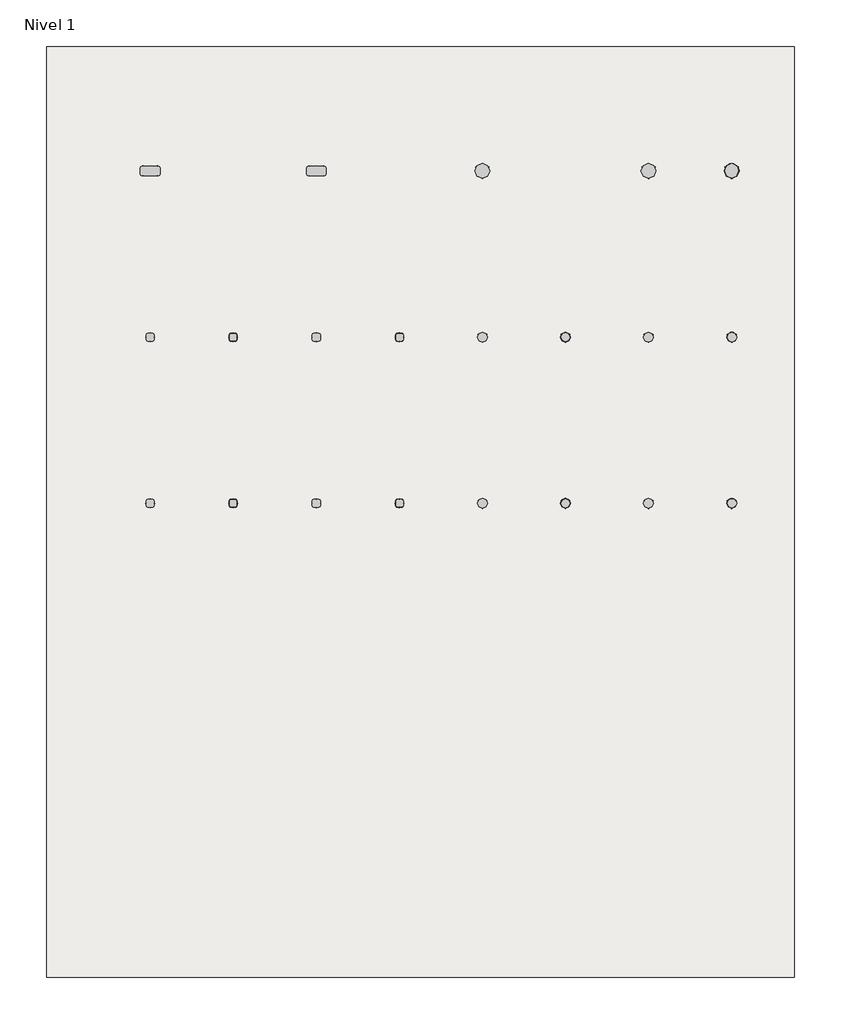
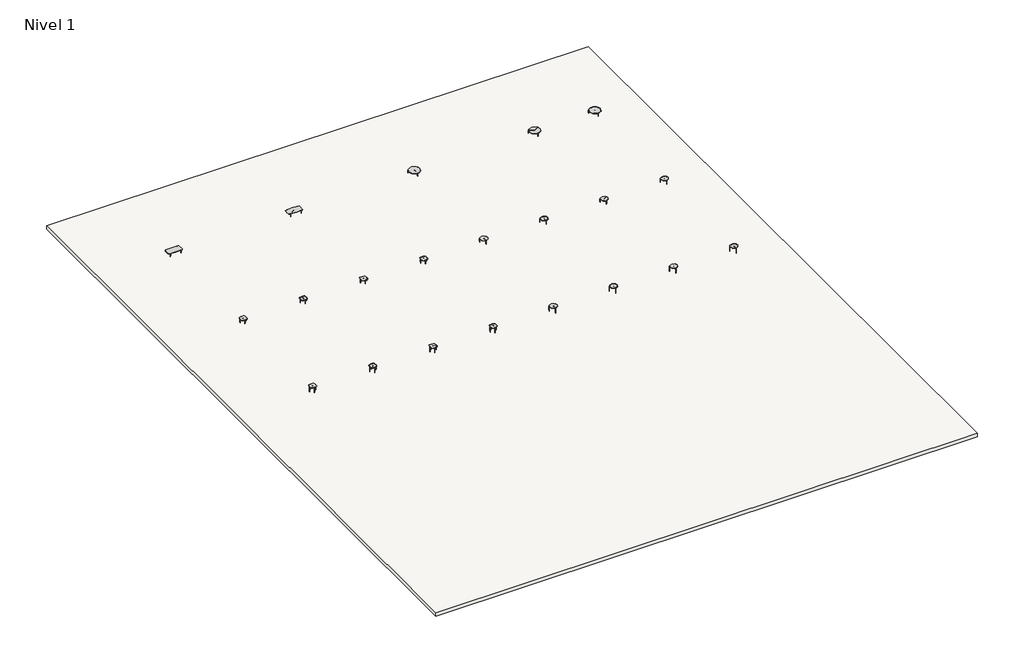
# One storey, incomplete: 21 furniture elements, 1 slab.
"""IFC4 building model written with IfcOpenShell, lengths in millimetres."""

from ifc_helpers import new_model, si_unit, frame, origin, place, context, project, spatial, polyline, outline, extrude, transform, mapped, element, save
from components import furniture_3ea3abeb, furniture_0b7f0485, furniture_68b2156a, furniture_04b375e8, furniture_84bfae13, furniture_c892bf0a, furniture_d338b52c, furniture_d06894ee, furniture_a6a437eb, furniture_f02ffc08, furniture_a62885bd, furniture_dfe64af2, furniture_f1675d91, furniture_cd6018a7, furniture_a31ff325, furniture_b73a5fb6, furniture_b69855c9, furniture_e455597c, furniture_3b859df5, furniture_46decb34, furniture_c5b88fe7

model = new_model("IFC4")

# Units and contexts
model_context = context("Model", 3, world=origin())
ifc_project = project(units=[si_unit("LENGTHUNIT", "METRE", prefix="MILLI")], contexts=[model_context])

# Site, building, storey
site = spatial("IfcSite", under=ifc_project)
building = spatial("IfcBuilding", under=site)
storey = spatial("IfcBuildingStorey", under=building, Name="Nivel 1", Elevation=0.0)

# Furniture
placement = place(None, origin())
furniture_shape = furniture_3ea3abeb(model_context)
element("IfcFurniture", 1, ObjectType="RECTANGULAR TABLE_H=25 : EI125B051260A_M", at=placement, inside=storey, context=model_context, shape_type="MappedRepresentation", body=[
    mapped(furniture_shape, transform((-18701.5713324, 5558.6247501, 0.0), x_axis=(1.0, 0.0, 0.0), y_axis=(0.0, 1.0, 0.0), z_axis=(0.0, 0.0, 1.0))),
])
furniture_2_shape = furniture_0b7f0485(model_context)
element("IfcFurniture", 2, ObjectType="RECTANGULAR TABLE_H=25 : EI125B051260A_G", at=placement, inside=storey, context=model_context, shape_type="MappedRepresentation", body=[
    mapped(furniture_2_shape, transform((-8701.5713324, 5558.6247501, 0.0), x_axis=(1.0, 0.0, 0.0), y_axis=(0.0, 1.0, 0.0), z_axis=(0.0, 0.0, 1.0))),
])
furniture_3_shape = furniture_68b2156a(model_context)
element("IfcFurniture", 3, ObjectType="ROUND TABLE_H=25 : EI125B050090A_M", at=placement, inside=storey, context=model_context, shape_type="MappedRepresentation", body=[
    mapped(furniture_3_shape, transform((1298.4286676, 5558.6247501, 0.0), x_axis=(1.0, 0.0, 0.0), y_axis=(0.0, 1.0, 0.0), z_axis=(0.0, 0.0, 1.0))),
])
furniture_4_shape = furniture_04b375e8(model_context)
element("IfcFurniture", 4, ObjectType="ROUND TABLE_H=25 : EI125B050090A_L", at=placement, inside=storey, context=model_context, shape_type="MappedRepresentation", body=[
    mapped(furniture_4_shape, transform((16298.4286676, 5558.6247501, 0.0), x_axis=(1.0, 0.0, 0.0), y_axis=(0.0, 1.0, 0.0), z_axis=(0.0, 0.0, 1.0))),
])
furniture_5_shape = furniture_84bfae13(model_context)
element("IfcFurniture", 5, ObjectType="ROUND TABLE_H=25 : EI125B050090A_G", at=placement, inside=storey, context=model_context, shape_type="MappedRepresentation", body=[
    mapped(furniture_5_shape, transform((11298.4286676, 5558.6247501, 0.0), x_axis=(1.0, 0.0, 0.0), y_axis=(0.0, 1.0, 0.0), z_axis=(0.0, 0.0, 1.0))),
])
furniture_6_shape = furniture_c892bf0a(model_context)
element("IfcFurniture", 6, ObjectType="ROUND TABLE_H=31 : EI131B050060A_M", at=placement, inside=storey, context=model_context, shape_type="MappedRepresentation", body=[
    mapped(furniture_6_shape, transform((1298.4286676, -4441.3752499, 0.0), x_axis=(1.0, 0.0, 0.0), y_axis=(0.0, 1.0, 0.0), z_axis=(0.0, 0.0, 1.0))),
])
furniture_7_shape = furniture_d338b52c(model_context)
element("IfcFurniture", 7, ObjectType="ROUND TABLE_H=31 : EI131B050060A_L", at=placement, inside=storey, context=model_context, shape_type="MappedRepresentation", body=[
    mapped(furniture_7_shape, transform((16298.4286676, -4441.3752499, 0.0), x_axis=(1.0, 0.0, 0.0), y_axis=(0.0, 1.0, 0.0), z_axis=(0.0, 0.0, 1.0))),
])
furniture_8_shape = furniture_d06894ee(model_context)
element("IfcFurniture", 8, ObjectType="ROUND TABLE_H=31 : EI131B050060A_F", at=placement, inside=storey, context=model_context, shape_type="MappedRepresentation", body=[
    mapped(furniture_8_shape, transform((6298.4286676, -4441.3752499, 0.0), x_axis=(1.0, 0.0, 0.0), y_axis=(0.0, 1.0, 0.0), z_axis=(0.0, 0.0, 1.0))),
])
furniture_9_shape = furniture_a6a437eb(model_context)
element("IfcFurniture", 9, ObjectType="ROUND TABLE_H=31 : EI131B050060A_G", at=placement, inside=storey, context=model_context, shape_type="MappedRepresentation", body=[
    mapped(furniture_9_shape, transform((11298.4286676, -4441.3752499, 0.0), x_axis=(1.0, 0.0, 0.0), y_axis=(0.0, 1.0, 0.0), z_axis=(0.0, 0.0, 1.0))),
])
furniture_10_shape = furniture_f02ffc08(model_context)
element("IfcFurniture", 10, ObjectType="ROUND TABLE_H=45 : EI145B050060A_M", at=placement, inside=storey, context=model_context, shape_type="MappedRepresentation", body=[
    mapped(furniture_10_shape, transform((1298.4286676, -14441.3752499, 0.0), x_axis=(1.0, 0.0, 0.0), y_axis=(0.0, 1.0, 0.0), z_axis=(0.0, 0.0, 1.0))),
])
furniture_11_shape = furniture_a62885bd(model_context)
element("IfcFurniture", 11, ObjectType="ROUND TABLE_H=45 : EI145B050060A_L", at=placement, inside=storey, context=model_context, shape_type="MappedRepresentation", body=[
    mapped(furniture_11_shape, transform((16298.4286676, -14441.3752499, 0.0), x_axis=(1.0, 0.0, 0.0), y_axis=(0.0, 1.0, 0.0), z_axis=(0.0, 0.0, 1.0))),
])
furniture_12_shape = furniture_dfe64af2(model_context)
element("IfcFurniture", 12, ObjectType="ROUND TABLE_H=45 : EI145B050060A_F", at=placement, inside=storey, context=model_context, shape_type="MappedRepresentation", body=[
    mapped(furniture_12_shape, transform((6298.4286676, -14441.3752499, 0.0), x_axis=(1.0, 0.0, 0.0), y_axis=(0.0, 1.0, 0.0), z_axis=(0.0, 0.0, 1.0))),
])
furniture_13_shape = furniture_f1675d91(model_context)
element("IfcFurniture", 13, ObjectType="ROUND TABLE_H=45 : EI145B050060A_G", at=placement, inside=storey, context=model_context, shape_type="MappedRepresentation", body=[
    mapped(furniture_13_shape, transform((11298.4286676, -14441.3752499, 0.0), x_axis=(1.0, 0.0, 0.0), y_axis=(0.0, 1.0, 0.0), z_axis=(0.0, 0.0, 1.0))),
])
furniture_14_shape = furniture_cd6018a7(model_context)
element("IfcFurniture", 14, ObjectType="RECTANGULAR TABLE_H=31 : EI131B055050A_M", at=placement, inside=storey, context=model_context, shape_type="MappedRepresentation", body=[
    mapped(furniture_14_shape, transform((-18701.5713324, -4441.3752499, 0.0), x_axis=(1.0, 0.0, 0.0), y_axis=(0.0, 1.0, 0.0), z_axis=(0.0, 0.0, 1.0))),
])
furniture_15_shape = furniture_a31ff325(model_context)
element("IfcFurniture", 15, ObjectType="RECTANGULAR TABLE_H=31 : EI131B055050A_L", at=placement, inside=storey, context=model_context, shape_type="MappedRepresentation", body=[
    mapped(furniture_15_shape, transform((-3701.5713324, -4441.3752499, 0.0), x_axis=(1.0, 0.0, 0.0), y_axis=(0.0, 1.0, 0.0), z_axis=(0.0, 0.0, 1.0))),
])
furniture_16_shape = furniture_b73a5fb6(model_context)
element("IfcFurniture", 16, ObjectType="RECTANGULAR TABLE_H=31 : EI131B055050A_F", at=placement, inside=storey, context=model_context, shape_type="MappedRepresentation", body=[
    mapped(furniture_16_shape, transform((-13701.5713324, -4441.3752499, 0.0), x_axis=(1.0, 0.0, 0.0), y_axis=(0.0, 1.0, 0.0), z_axis=(0.0, 0.0, 1.0))),
])
furniture_17_shape = furniture_b69855c9(model_context)
element("IfcFurniture", 17, ObjectType="RECTANGULAR TABLE_H=31 : EI131B055050A_G", at=placement, inside=storey, context=model_context, shape_type="MappedRepresentation", body=[
    mapped(furniture_17_shape, transform((-8701.5713324, -4441.3752499, 0.0), x_axis=(1.0, 0.0, 0.0), y_axis=(0.0, 1.0, 0.0), z_axis=(0.0, 0.0, 1.0))),
])
furniture_18_shape = furniture_e455597c(model_context)
element("IfcFurniture", 18, ObjectType="RECTANGULAR TABLE_H=45 : EI145B055050A_M", at=placement, inside=storey, context=model_context, shape_type="MappedRepresentation", body=[
    mapped(furniture_18_shape, transform((-18701.5713324, -14441.3752499, 0.0), x_axis=(1.0, 0.0, 0.0), y_axis=(0.0, 1.0, 0.0), z_axis=(0.0, 0.0, 1.0))),
])
furniture_19_shape = furniture_3b859df5(model_context)
element("IfcFurniture", 19, ObjectType="RECTANGULAR TABLE_H=45 : EI145B055050A_L", at=placement, inside=storey, context=model_context, shape_type="MappedRepresentation", body=[
    mapped(furniture_19_shape, transform((-3701.5713324, -14441.3752499, 0.0), x_axis=(1.0, 0.0, 0.0), y_axis=(0.0, 1.0, 0.0), z_axis=(0.0, 0.0, 1.0))),
])
furniture_20_shape = furniture_46decb34(model_context)
element("IfcFurniture", 20, ObjectType="RECTANGULAR TABLE_H=45 : EI145B055050A_F", at=placement, inside=storey, context=model_context, shape_type="MappedRepresentation", body=[
    mapped(furniture_20_shape, transform((-13701.5713324, -14441.3752499, 0.0), x_axis=(1.0, 0.0, 0.0), y_axis=(0.0, 1.0, 0.0), z_axis=(0.0, 0.0, 1.0))),
])
furniture_21_shape = furniture_c5b88fe7(model_context)
element("IfcFurniture", 21, ObjectType="RECTANGULAR TABLE_H=45 : EI145B055050A_G", at=placement, inside=storey, context=model_context, shape_type="MappedRepresentation", body=[
    mapped(furniture_21_shape, transform((-8701.5713324, -14441.3752499, 0.0), x_axis=(1.0, 0.0, 0.0), y_axis=(0.0, 1.0, 0.0), z_axis=(0.0, 0.0, 1.0))),
])

# Slab
element("IfcSlab", 22, ObjectType="Por defecto - 30 cm", at=placement, inside=storey, context=model_context, shape_type="SweptSolid", body=[
    extrude(outline(polyline([(20060.5018965, 13040.8071483), (20060.5018965, -42959.1928517), (-24939.4981035, -42959.1928517), (-24939.4981035, 13040.8071483), (20060.5018965, 13040.8071483)])), frame((0.0, 0.0, -300.0), z_axis=(0.0, 0.0, 1.0), x_axis=(1.0, 0.0, 0.0)), (0.0, 0.0, 1.0), 300.0),
])

save(model, "model.ifc")
